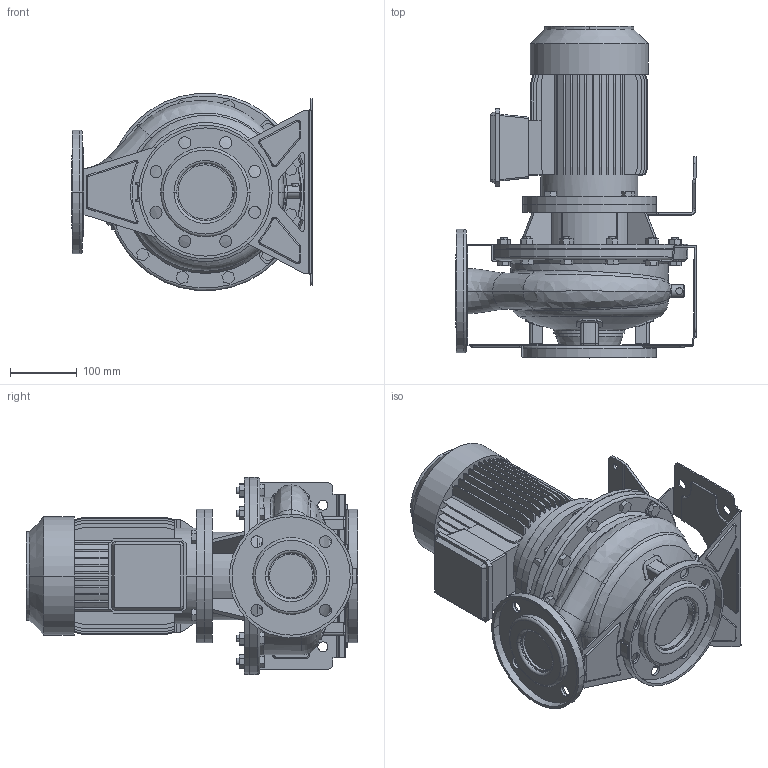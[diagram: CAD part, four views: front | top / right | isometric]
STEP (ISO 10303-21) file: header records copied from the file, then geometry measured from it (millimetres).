
FILE_DESCRIPTION((''),'2;1');
FILE_NAME('3S4_65-160_1_5_IE3_ASM','2016-09-24T',('rosa'),('"Ebara Pumps Europe +39.444.706811"'),'PRO/ENGINEER BY PARAMETRIC TECHNOLOGY CORPORATION, 2012130','PRO/ENGINEER BY PARAMETRIC TECHNOLOGY CORPORATION, 2012130','');
FILE_SCHEMA(('AUTOMOTIVE_DESIGN { 1 0 10303 214 1 1 1 1 }'));
Length unit declared in the file: millimetre
Products named in the file (11): MOTORE_90_1_1-1_5_KW_4POLI_B5; SUPPORTO_3S_230_90; SOSTEGNO_3S_72020; CORPO_65-160_AF0; ASP_65-160; FLANGIA_DIN_80_8_FORI; MAND_65-160; FLANGIA_DIN_65; BASE_3M_65-160; CORPO_SALDATO_65-160_ASM; 3S4_65-160_1_5_IE3_ASM
Assembly tree (10 placements, depth 3):
  3S4_65-160_1_5_IE3_ASM
    MOTORE_90_1_1-1_5_KW_4POLI_B5
    SUPPORTO_3S_230_90
    SOSTEGNO_3S_72020
    CORPO_SALDATO_65-160_ASM
      CORPO_65-160_AF0
      ASP_65-160
      FLANGIA_DIN_80_8_FORI
      MAND_65-160
      FLANGIA_DIN_65
      BASE_3M_65-160
Bounding box: 360 x 497 x 295.13 mm (x, y, z)
Volume: 13203100.1 mm3; surface area: 1406313.4 mm2
Topology: 12 solids, 12 shells, 1159 faces, 2984 edges, 1962 vertices
Faces by surface type: plane 718, cylinder 324, torus 54, bspline 33, cone 24, sphere 6
Entity records: 49556 total; most frequent: CARTESIAN_POINT 9745, DIRECTION 6103, ORIENTED_EDGE 5968, EDGE_CURVE 2984, PRESENTATION_STYLE_ASSIGNMENT 2855, STYLED_ITEM 2855, CURVE_STYLE 2844, AXIS2_PLACEMENT_3D 2065
